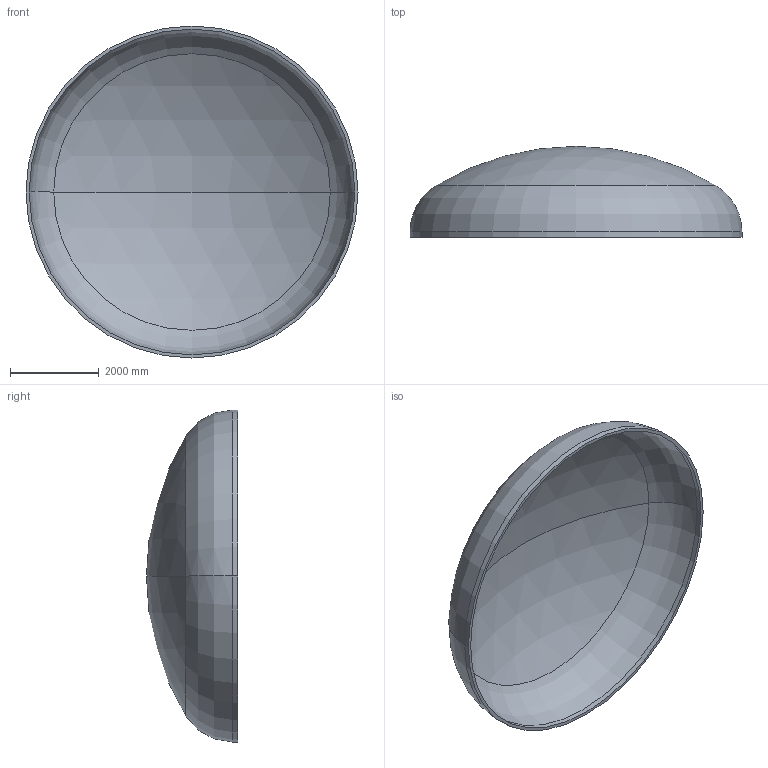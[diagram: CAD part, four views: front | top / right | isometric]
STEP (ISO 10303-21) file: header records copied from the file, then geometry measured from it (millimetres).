
FILE_DESCRIPTION (( 'STEP AP203' ), '1' );
FILE_NAME ('DIN 28013 Korbbogenform_-_Boden DIN 28013 - 7500 x 120 - I - s=72.step', '2016-07-04T10:55:40', ( '' ), ( '' ), 'SwSTEP 2.0', 'SolidWorks 2013', '' );
FILE_SCHEMA (( 'CONFIG_CONTROL_DESIGN' ));
Length unit declared in the file: millimetre
Products named in the file (1): DIN 28013 Korbbogenform_-_Boden DIN 28013 - 7500 x 120 - I - s=72
Bounding box: 7500 x 2055.76 x 7500 mm (x, y, z)
Volume: 4551496106.4 mm3; surface area: 128121429.9 mm2
Topology: 1 solids, 1 shells, 13 faces, 24 edges, 14 vertices
Faces by surface type: torus 4, cylinder 4, sphere 4, plane 1
Entity records: 407 total; most frequent: DIRECTION 72, CARTESIAN_POINT 52, ORIENTED_EDGE 48, AXIS2_PLACEMENT_3D 34, EDGE_CURVE 24, CIRCLE 20, EDGE_LOOP 14, VERTEX_POINT 14
